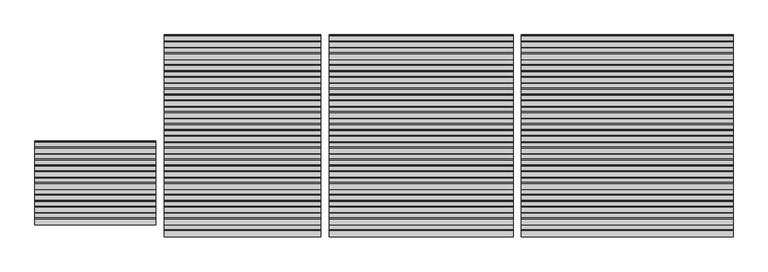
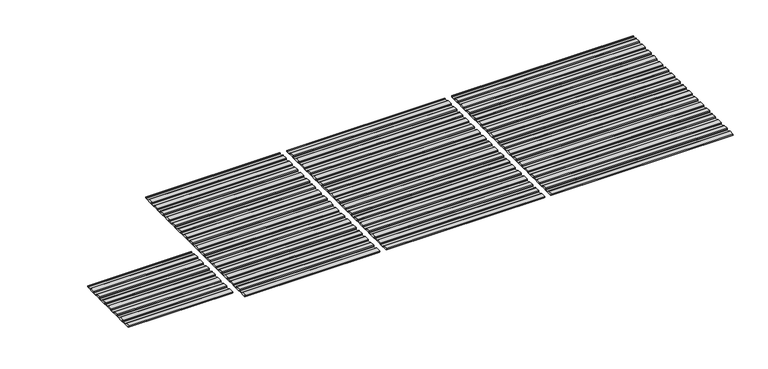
"""IFC4 building model written with IfcOpenShell, lengths in millimetres: proxy geometry, Renson_Camargue_Freestanding_Patio covers : Renson_Camargue_Freestanding_Patio covers."""

from ifc_helpers import new_model, si_unit, point, frame, frame_2d, origin, place, context, project, spatial, polyline, circle_curve, trimmed, segment, composite_curve, outline, extrude, source, transform, mapped, element, save


def generic_models_a9a52054(model_context):
    return source(origin(), model_context, "Body", "SweptSolid", [
        extrude(outline(composite_curve([segment(polyline([(-1573.7338351, 2458.35), (-1576.1539448, 2486.01198), (-1604.9891952, 2487.3970364), (-1601.5518641, 2506.8911096), (-1491.5547493, 2501.6075693)]), True, "CONTINUOUS"), segment(trimmed(circle_curve(frame_2d((-1492.2744212, 2486.6248435)), 15.0), [point((-1491.5547493, 2501.6075693))], [point((-1477.5023049, 2489.2295662))], False, "CARTESIAN"), True, "CONTINUOUS"), segment(polyline([(-1477.5023049, 2489.2295662), (-1474.1116136, 2470.0), (-1386.3758376, 2470.0), (-1383.3643801, 2487.0788237), (-1368.0874097, 2486.3450182), (-1365.6381629, 2458.35), (-1573.7338351, 2458.35)]), True, "CONTINUOUS")], self_intersect=False)), frame((7750.0, 0.0, 0.0), z_axis=(1.0, 0.0, 0.0), x_axis=(0.0, 1.0, 0.0)), (0.0, 0.0, 1.0), 3850.0),
        extrude(outline(composite_curve([segment(polyline([(-1358.7230303, 2458.35), (-1361.14314, 2486.01198), (-1389.9783904, 2487.3970364), (-1386.5410594, 2506.8911096), (-1276.5439445, 2501.6075693)]), True, "CONTINUOUS"), segment(trimmed(circle_curve(frame_2d((-1277.2636164, 2486.6248435)), 15.0), [point((-1276.5439445, 2501.6075693))], [point((-1262.4915001, 2489.2295662))], False, "CARTESIAN"), True, "CONTINUOUS"), segment(polyline([(-1262.4915001, 2489.2295662), (-1259.1008088, 2470.0), (-1171.3650328, 2470.0), (-1168.3535754, 2487.0788237), (-1153.0766049, 2486.3450182), (-1150.6273582, 2458.35), (-1358.7230303, 2458.35)]), True, "CONTINUOUS")], self_intersect=False)), frame((7750.0, 0.0, 0.0), z_axis=(1.0, 0.0, 0.0), x_axis=(0.0, 1.0, 0.0)), (0.0, 0.0, 1.0), 3850.0),
        extrude(outline(composite_curve([segment(polyline([(-1143.7122255, 2458.35), (-1146.1323352, 2486.01198), (-1174.9675857, 2487.3970364), (-1171.5302546, 2506.8911096), (-1061.5331397, 2501.6075693)]), True, "CONTINUOUS"), segment(trimmed(circle_curve(frame_2d((-1062.2528117, 2486.6248435)), 15.0), [point((-1061.5331397, 2501.6075693))], [point((-1047.4806954, 2489.2295662))], False, "CARTESIAN"), True, "CONTINUOUS"), segment(polyline([(-1047.4806954, 2489.2295662), (-1044.090004, 2470.0), (-956.354228, 2470.0), (-953.3427706, 2487.0788237), (-938.0658001, 2486.3450182), (-935.6165534, 2458.35), (-1143.7122255, 2458.35)]), True, "CONTINUOUS")], self_intersect=False)), frame((7750.0, 0.0, 0.0), z_axis=(1.0, 0.0, 0.0), x_axis=(0.0, 1.0, 0.0)), (0.0, 0.0, 1.0), 3850.0),
        extrude(outline(composite_curve([segment(polyline([(-928.7014208, 2458.35), (-931.1215304, 2486.01198), (-959.9567809, 2487.3970364), (-956.5194498, 2506.8911096), (-846.5223349, 2501.6075693)]), True, "CONTINUOUS"), segment(trimmed(circle_curve(frame_2d((-847.2420069, 2486.6248435)), 15.0), [point((-846.5223349, 2501.6075693))], [point((-832.4698906, 2489.2295662))], False, "CARTESIAN"), True, "CONTINUOUS"), segment(polyline([(-832.4698906, 2489.2295662), (-829.0791992, 2470.0), (-741.3434232, 2470.0), (-738.3319658, 2487.0788237), (-723.0549953, 2486.3450182), (-720.6057486, 2458.35), (-928.7014208, 2458.35)]), True, "CONTINUOUS")], self_intersect=False)), frame((7750.0, 0.0, 0.0), z_axis=(1.0, 0.0, 0.0), x_axis=(0.0, 1.0, 0.0)), (0.0, 0.0, 1.0), 3850.0),
        extrude(outline(composite_curve([segment(polyline([(-713.690616, 2458.35), (-716.1107256, 2486.01198), (-744.9459761, 2487.3970364), (-741.508645, 2506.8911096), (-631.5115302, 2501.6075693)]), True, "CONTINUOUS"), segment(trimmed(circle_curve(frame_2d((-632.2312021, 2486.6248435)), 15.0), [point((-631.5115302, 2501.6075693))], [point((-617.4590858, 2489.2295662))], False, "CARTESIAN"), True, "CONTINUOUS"), segment(polyline([(-617.4590858, 2489.2295662), (-614.0683945, 2470.0), (-526.3326184, 2470.0), (-523.321161, 2487.0788237), (-508.0441905, 2486.3450182), (-505.5949438, 2458.35), (-713.690616, 2458.35)]), True, "CONTINUOUS")], self_intersect=False)), frame((7750.0, 0.0, 0.0), z_axis=(1.0, 0.0, 0.0), x_axis=(0.0, 1.0, 0.0)), (0.0, 0.0, 1.0), 3850.0),
        extrude(outline(composite_curve([segment(polyline([(-498.6798112, 2458.35), (-501.0999209, 2486.01198), (-529.9351713, 2487.3970364), (-526.4978402, 2506.8911096), (-416.5007254, 2501.6075693)]), True, "CONTINUOUS"), segment(trimmed(circle_curve(frame_2d((-417.2203973, 2486.6248435)), 15.0), [point((-416.5007254, 2501.6075693))], [point((-402.448281, 2489.2295662))], False, "CARTESIAN"), True, "CONTINUOUS"), segment(polyline([(-402.448281, 2489.2295662), (-399.0575897, 2470.0), (-311.3218136, 2470.0), (-308.3103562, 2487.0788237), (-293.0333858, 2486.3450182), (-290.584139, 2458.35), (-498.6798112, 2458.35)]), True, "CONTINUOUS")], self_intersect=False)), frame((7750.0, 0.0, 0.0), z_axis=(1.0, 0.0, 0.0), x_axis=(0.0, 1.0, 0.0)), (0.0, 0.0, 1.0), 3850.0),
        extrude(outline(composite_curve([segment(polyline([(-283.6690064, 2458.35), (-286.0891161, 2486.01198), (-314.9243665, 2487.3970364), (-311.4870355, 2506.8911096), (-201.4899206, 2501.6075693)]), True, "CONTINUOUS"), segment(trimmed(circle_curve(frame_2d((-202.2095925, 2486.6248435)), 15.0), [point((-201.4899206, 2501.6075693))], [point((-187.4374762, 2489.2295662))], False, "CARTESIAN"), True, "CONTINUOUS"), segment(polyline([(-187.4374762, 2489.2295662), (-184.0467849, 2470.0), (-96.3110089, 2470.0), (-93.2995515, 2487.0788237), (-78.022581, 2486.3450182), (-75.5733343, 2458.35), (-283.6690064, 2458.35)]), True, "CONTINUOUS")], self_intersect=False)), frame((7750.0, 0.0, 0.0), z_axis=(1.0, 0.0, 0.0), x_axis=(0.0, 1.0, 0.0)), (0.0, 0.0, 1.0), 3850.0),
        extrude(outline(composite_curve([segment(polyline([(-68.6582016, 2458.35), (-71.0783113, 2486.01198), (-99.9135617, 2487.3970364), (-96.4762307, 2506.8911096), (13.5208842, 2501.6075693)]), True, "CONTINUOUS"), segment(trimmed(circle_curve(frame_2d((12.8012122, 2486.6248435)), 15.0), [point((13.5208842, 2501.6075693))], [point((27.5733285, 2489.2295662))], False, "CARTESIAN"), True, "CONTINUOUS"), segment(polyline([(27.5733285, 2489.2295662), (30.9640199, 2470.0), (118.6997959, 2470.0), (121.7112533, 2487.0788237), (136.9882238, 2486.3450182), (139.4374705, 2458.35), (-68.6582016, 2458.35)]), True, "CONTINUOUS")], self_intersect=False)), frame((7750.0, 0.0, 0.0), z_axis=(1.0, 0.0, 0.0), x_axis=(0.0, 1.0, 0.0)), (0.0, 0.0, 1.0), 3850.0),
        extrude(outline(composite_curve([segment(polyline([(146.3526032, 2458.35), (143.9324935, 2486.01198), (115.097243, 2487.3970364), (118.5345741, 2506.8911096), (228.531689, 2501.6075693)]), True, "CONTINUOUS"), segment(trimmed(circle_curve(frame_2d((227.812017, 2486.6248435)), 15.0), [point((228.531689, 2501.6075693))], [point((242.5841333, 2489.2295662))], False, "CARTESIAN"), True, "CONTINUOUS"), segment(polyline([(242.5841333, 2489.2295662), (245.9748247, 2470.0), (333.7106007, 2470.0), (336.7220581, 2487.0788237), (351.9990286, 2486.3450182), (354.4482753, 2458.35), (146.3526032, 2458.35)]), True, "CONTINUOUS")], self_intersect=False)), frame((7750.0, 0.0, 0.0), z_axis=(1.0, 0.0, 0.0), x_axis=(0.0, 1.0, 0.0)), (0.0, 0.0, 1.0), 3850.0),
        extrude(outline(composite_curve([segment(polyline([(361.3634079, 2458.35), (358.9432983, 2486.01198), (330.1080478, 2487.3970364), (333.5453789, 2506.8911096), (443.5424937, 2501.6075693)]), True, "CONTINUOUS"), segment(trimmed(circle_curve(frame_2d((442.8228218, 2486.6248435)), 15.0), [point((443.5424937, 2501.6075693))], [point((457.5949381, 2489.2295662))], False, "CARTESIAN"), True, "CONTINUOUS"), segment(polyline([(457.5949381, 2489.2295662), (460.9856294, 2470.0), (548.7214055, 2470.0), (551.7328629, 2487.0788237), (567.0098334, 2486.3450182), (569.4590801, 2458.35), (361.3634079, 2458.35)]), True, "CONTINUOUS")], self_intersect=False)), frame((7750.0, 0.0, 0.0), z_axis=(1.0, 0.0, 0.0), x_axis=(0.0, 1.0, 0.0)), (0.0, 0.0, 1.0), 3850.0),
        extrude(outline(composite_curve([segment(polyline([(576.3742127, 2458.35), (573.9541031, 2486.01198), (545.1188526, 2487.3970364), (548.5561837, 2506.8911096), (658.5532985, 2501.6075693)]), True, "CONTINUOUS"), segment(trimmed(circle_curve(frame_2d((657.8336266, 2486.6248435)), 15.0), [point((658.5532985, 2501.6075693))], [point((672.6057429, 2489.2295662))], False, "CARTESIAN"), True, "CONTINUOUS"), segment(polyline([(672.6057429, 2489.2295662), (675.9964342, 2470.0), (763.7322103, 2470.0), (766.7436677, 2487.0788237), (782.0206381, 2486.3450182), (784.4698849, 2458.35), (576.3742127, 2458.35)]), True, "CONTINUOUS")], self_intersect=False)), frame((7750.0, 0.0, 0.0), z_axis=(1.0, 0.0, 0.0), x_axis=(0.0, 1.0, 0.0)), (0.0, 0.0, 1.0), 3850.0),
        extrude(outline(composite_curve([segment(polyline([(791.3850175, 2458.35), (788.9649078, 2486.01198), (760.1296574, 2487.3970364), (763.5669885, 2506.8911096), (873.5641033, 2501.6075693)]), True, "CONTINUOUS"), segment(trimmed(circle_curve(frame_2d((872.8444314, 2486.6248435)), 15.0), [point((873.5641033, 2501.6075693))], [point((887.6165477, 2489.2295662))], False, "CARTESIAN"), True, "CONTINUOUS"), segment(polyline([(887.6165477, 2489.2295662), (891.007239, 2470.0), (978.743015, 2470.0), (981.7544725, 2487.0788237), (997.0314429, 2486.3450182), (999.4806897, 2458.35), (791.3850175, 2458.35)]), True, "CONTINUOUS")], self_intersect=False)), frame((7750.0, 0.0, 0.0), z_axis=(1.0, 0.0, 0.0), x_axis=(0.0, 1.0, 0.0)), (0.0, 0.0, 1.0), 3850.0),
        extrude(outline(composite_curve([segment(polyline([(1006.3958223, 2458.35), (1003.9757126, 2486.01198), (975.1404622, 2487.3970364), (978.5777932, 2506.8911096), (1088.5749081, 2501.6075693)]), True, "CONTINUOUS"), segment(trimmed(circle_curve(frame_2d((1087.8552362, 2486.6248435)), 15.0), [point((1088.5749081, 2501.6075693))], [point((1102.6273525, 2489.2295662))], False, "CARTESIAN"), True, "CONTINUOUS"), segment(polyline([(1102.6273525, 2489.2295662), (1106.0180438, 2470.0), (1193.7538198, 2470.0), (1196.7652772, 2487.0788237), (1212.0422477, 2486.3450182), (1214.4914944, 2458.35), (1006.3958223, 2458.35)]), True, "CONTINUOUS")], self_intersect=False)), frame((7750.0, 0.0, 0.0), z_axis=(1.0, 0.0, 0.0), x_axis=(0.0, 1.0, 0.0)), (0.0, 0.0, 1.0), 3850.0),
        extrude(outline(composite_curve([segment(polyline([(1221.4066271, 2458.35), (1218.9865174, 2486.01198), (1190.1512669, 2487.3970364), (1193.588598, 2506.8911096), (1303.5857129, 2501.6075693)]), True, "CONTINUOUS"), segment(trimmed(circle_curve(frame_2d((1302.8660409, 2486.6248435)), 15.0), [point((1303.5857129, 2501.6075693))], [point((1317.6381572, 2489.2295662))], False, "CARTESIAN"), True, "CONTINUOUS"), segment(polyline([(1317.6381572, 2489.2295662), (1321.0288486, 2470.0), (1408.7646246, 2470.0), (1411.776082, 2487.0788237), (1427.0530525, 2486.3450182), (1429.5022992, 2458.35), (1221.4066271, 2458.35)]), True, "CONTINUOUS")], self_intersect=False)), frame((7750.0, 0.0, 0.0), z_axis=(1.0, 0.0, 0.0), x_axis=(0.0, 1.0, 0.0)), (0.0, 0.0, 1.0), 3850.0),
        extrude(outline(composite_curve([segment(polyline([(1436.4174318, 2458.35), (1433.9973222, 2486.01198), (1405.1620717, 2487.3970364), (1408.5994028, 2506.8911096), (1518.5965176, 2501.6075693)]), True, "CONTINUOUS"), segment(trimmed(circle_curve(frame_2d((1517.8768457, 2486.6248435)), 15.0), [point((1518.5965176, 2501.6075693))], [point((1532.648962, 2489.2295662))], False, "CARTESIAN"), True, "CONTINUOUS"), segment(polyline([(1532.648962, 2489.2295662), (1536.0396534, 2470.0), (1623.7754294, 2470.0), (1626.7868868, 2487.0788237), (1642.0638573, 2486.3450182), (1644.513104, 2458.35), (1436.4174318, 2458.35)]), True, "CONTINUOUS")], self_intersect=False)), frame((7750.0, 0.0, 0.0), z_axis=(1.0, 0.0, 0.0), x_axis=(0.0, 1.0, 0.0)), (0.0, 0.0, 1.0), 3850.0),
        extrude(outline(composite_curve([segment(polyline([(-1788.7446399, 2458.35), (-1791.1647495, 2486.01198), (-1820.0, 2487.3970364), (-1816.5626689, 2506.8911096), (-1706.5655541, 2501.6075693)]), True, "CONTINUOUS"), segment(trimmed(circle_curve(frame_2d((-1707.285226, 2486.6248435)), 15.0), [point((-1706.5655541, 2501.6075693))], [point((-1692.5131097, 2489.2295662))], False, "CARTESIAN"), True, "CONTINUOUS"), segment(polyline([(-1692.5131097, 2489.2295662), (-1689.1224184, 2470.0), (-1601.3866423, 2470.0), (-1598.3751849, 2487.0788237), (-1583.0982144, 2486.3450182), (-1580.6489677, 2458.35), (-1788.7446399, 2458.35)]), True, "CONTINUOUS")], self_intersect=False)), frame((7750.0, 0.0, 0.0), z_axis=(1.0, 0.0, 0.0), x_axis=(0.0, 1.0, 0.0)), (0.0, 0.0, 1.0), 3850.0),
        extrude(outline(composite_curve([segment(polyline([(1651.4282366, 2458.35), (1649.008127, 2486.01198), (1620.1728765, 2487.3970364), (1623.6102076, 2506.8911096), (1733.6073224, 2501.6075693)]), True, "CONTINUOUS"), segment(trimmed(circle_curve(frame_2d((1732.8876505, 2486.6248435)), 15.0), [point((1733.6073224, 2501.6075693))], [point((1747.6597668, 2489.2295662))], False, "CARTESIAN"), True, "CONTINUOUS"), segment(polyline([(1747.6597668, 2489.2295662), (1751.0504581, 2470.0), (1838.7862342, 2470.0), (1841.7976916, 2487.0788237), (1857.0746621, 2486.3450182), (1859.5239088, 2458.35), (1651.4282366, 2458.35)]), True, "CONTINUOUS")], self_intersect=False)), frame((7750.0, 0.0, 0.0), z_axis=(1.0, 0.0, 0.0), x_axis=(0.0, 1.0, 0.0)), (0.0, 0.0, 1.0), 3850.0),
        extrude(outline(composite_curve([segment(polyline([(-1573.7338351, 2458.35), (-1576.1539448, 2486.01198), (-1604.9891952, 2487.3970364), (-1601.5518641, 2506.8911096), (-1491.5547493, 2501.6075693)]), True, "CONTINUOUS"), segment(trimmed(circle_curve(frame_2d((-1492.2744212, 2486.6248435)), 15.0), [point((-1491.5547493, 2501.6075693))], [point((-1477.5023049, 2489.2295662))], False, "CARTESIAN"), True, "CONTINUOUS"), segment(polyline([(-1477.5023049, 2489.2295662), (-1474.1116136, 2470.0), (-1386.3758376, 2470.0), (-1383.3643801, 2487.0788237), (-1368.0874097, 2486.3450182), (-1365.6381629, 2458.35), (-1573.7338351, 2458.35)]), True, "CONTINUOUS")], self_intersect=False)), frame((4250.0, 0.0, 0.0), z_axis=(1.0, 0.0, 0.0), x_axis=(0.0, 1.0, 0.0)), (0.0, 0.0, 1.0), 3350.0),
        extrude(outline(composite_curve([segment(polyline([(-1358.7230303, 2458.35), (-1361.14314, 2486.01198), (-1389.9783904, 2487.3970364), (-1386.5410594, 2506.8911096), (-1276.5439445, 2501.6075693)]), True, "CONTINUOUS"), segment(trimmed(circle_curve(frame_2d((-1277.2636164, 2486.6248435)), 15.0), [point((-1276.5439445, 2501.6075693))], [point((-1262.4915001, 2489.2295662))], False, "CARTESIAN"), True, "CONTINUOUS"), segment(polyline([(-1262.4915001, 2489.2295662), (-1259.1008088, 2470.0), (-1171.3650328, 2470.0), (-1168.3535754, 2487.0788237), (-1153.0766049, 2486.3450182), (-1150.6273582, 2458.35), (-1358.7230303, 2458.35)]), True, "CONTINUOUS")], self_intersect=False)), frame((4250.0, 0.0, 0.0), z_axis=(1.0, 0.0, 0.0), x_axis=(0.0, 1.0, 0.0)), (0.0, 0.0, 1.0), 3350.0),
        extrude(outline(composite_curve([segment(polyline([(-1143.7122255, 2458.35), (-1146.1323352, 2486.01198), (-1174.9675857, 2487.3970364), (-1171.5302546, 2506.8911096), (-1061.5331397, 2501.6075693)]), True, "CONTINUOUS"), segment(trimmed(circle_curve(frame_2d((-1062.2528117, 2486.6248435)), 15.0), [point((-1061.5331397, 2501.6075693))], [point((-1047.4806954, 2489.2295662))], False, "CARTESIAN"), True, "CONTINUOUS"), segment(polyline([(-1047.4806954, 2489.2295662), (-1044.090004, 2470.0), (-956.354228, 2470.0), (-953.3427706, 2487.0788237), (-938.0658001, 2486.3450182), (-935.6165534, 2458.35), (-1143.7122255, 2458.35)]), True, "CONTINUOUS")], self_intersect=False)), frame((4250.0, 0.0, 0.0), z_axis=(1.0, 0.0, 0.0), x_axis=(0.0, 1.0, 0.0)), (0.0, 0.0, 1.0), 3350.0),
        extrude(outline(composite_curve([segment(polyline([(-928.7014208, 2458.35), (-931.1215304, 2486.01198), (-959.9567809, 2487.3970364), (-956.5194498, 2506.8911096), (-846.5223349, 2501.6075693)]), True, "CONTINUOUS"), segment(trimmed(circle_curve(frame_2d((-847.2420069, 2486.6248435)), 15.0), [point((-846.5223349, 2501.6075693))], [point((-832.4698906, 2489.2295662))], False, "CARTESIAN"), True, "CONTINUOUS"), segment(polyline([(-832.4698906, 2489.2295662), (-829.0791992, 2470.0), (-741.3434232, 2470.0), (-738.3319658, 2487.0788237), (-723.0549953, 2486.3450182), (-720.6057486, 2458.35), (-928.7014208, 2458.35)]), True, "CONTINUOUS")], self_intersect=False)), frame((4250.0, 0.0, 0.0), z_axis=(1.0, 0.0, 0.0), x_axis=(0.0, 1.0, 0.0)), (0.0, 0.0, 1.0), 3350.0),
        extrude(outline(composite_curve([segment(polyline([(-713.690616, 2458.35), (-716.1107256, 2486.01198), (-744.9459761, 2487.3970364), (-741.508645, 2506.8911096), (-631.5115302, 2501.6075693)]), True, "CONTINUOUS"), segment(trimmed(circle_curve(frame_2d((-632.2312021, 2486.6248435)), 15.0), [point((-631.5115302, 2501.6075693))], [point((-617.4590858, 2489.2295662))], False, "CARTESIAN"), True, "CONTINUOUS"), segment(polyline([(-617.4590858, 2489.2295662), (-614.0683945, 2470.0), (-526.3326184, 2470.0), (-523.321161, 2487.0788237), (-508.0441905, 2486.3450182), (-505.5949438, 2458.35), (-713.690616, 2458.35)]), True, "CONTINUOUS")], self_intersect=False)), frame((4250.0, 0.0, 0.0), z_axis=(1.0, 0.0, 0.0), x_axis=(0.0, 1.0, 0.0)), (0.0, 0.0, 1.0), 3350.0),
        extrude(outline(composite_curve([segment(polyline([(-498.6798112, 2458.35), (-501.0999209, 2486.01198), (-529.9351713, 2487.3970364), (-526.4978402, 2506.8911096), (-416.5007254, 2501.6075693)]), True, "CONTINUOUS"), segment(trimmed(circle_curve(frame_2d((-417.2203973, 2486.6248435)), 15.0), [point((-416.5007254, 2501.6075693))], [point((-402.448281, 2489.2295662))], False, "CARTESIAN"), True, "CONTINUOUS"), segment(polyline([(-402.448281, 2489.2295662), (-399.0575897, 2470.0), (-311.3218136, 2470.0), (-308.3103562, 2487.0788237), (-293.0333858, 2486.3450182), (-290.584139, 2458.35), (-498.6798112, 2458.35)]), True, "CONTINUOUS")], self_intersect=False)), frame((4250.0, 0.0, 0.0), z_axis=(1.0, 0.0, 0.0), x_axis=(0.0, 1.0, 0.0)), (0.0, 0.0, 1.0), 3350.0),
        extrude(outline(composite_curve([segment(polyline([(-283.6690064, 2458.35), (-286.0891161, 2486.01198), (-314.9243665, 2487.3970364), (-311.4870355, 2506.8911096), (-201.4899206, 2501.6075693)]), True, "CONTINUOUS"), segment(trimmed(circle_curve(frame_2d((-202.2095925, 2486.6248435)), 15.0), [point((-201.4899206, 2501.6075693))], [point((-187.4374762, 2489.2295662))], False, "CARTESIAN"), True, "CONTINUOUS"), segment(polyline([(-187.4374762, 2489.2295662), (-184.0467849, 2470.0), (-96.3110089, 2470.0), (-93.2995515, 2487.0788237), (-78.022581, 2486.3450182), (-75.5733343, 2458.35), (-283.6690064, 2458.35)]), True, "CONTINUOUS")], self_intersect=False)), frame((4250.0, 0.0, 0.0), z_axis=(1.0, 0.0, 0.0), x_axis=(0.0, 1.0, 0.0)), (0.0, 0.0, 1.0), 3350.0),
        extrude(outline(composite_curve([segment(polyline([(-68.6582016, 2458.35), (-71.0783113, 2486.01198), (-99.9135617, 2487.3970364), (-96.4762307, 2506.8911096), (13.5208842, 2501.6075693)]), True, "CONTINUOUS"), segment(trimmed(circle_curve(frame_2d((12.8012122, 2486.6248435)), 15.0), [point((13.5208842, 2501.6075693))], [point((27.5733285, 2489.2295662))], False, "CARTESIAN"), True, "CONTINUOUS"), segment(polyline([(27.5733285, 2489.2295662), (30.9640199, 2470.0), (118.6997959, 2470.0), (121.7112533, 2487.0788237), (136.9882238, 2486.3450182), (139.4374705, 2458.35), (-68.6582016, 2458.35)]), True, "CONTINUOUS")], self_intersect=False)), frame((4250.0, 0.0, 0.0), z_axis=(1.0, 0.0, 0.0), x_axis=(0.0, 1.0, 0.0)), (0.0, 0.0, 1.0), 3350.0),
        extrude(outline(composite_curve([segment(polyline([(146.3526032, 2458.35), (143.9324935, 2486.01198), (115.097243, 2487.3970364), (118.5345741, 2506.8911096), (228.531689, 2501.6075693)]), True, "CONTINUOUS"), segment(trimmed(circle_curve(frame_2d((227.812017, 2486.6248435)), 15.0), [point((228.531689, 2501.6075693))], [point((242.5841333, 2489.2295662))], False, "CARTESIAN"), True, "CONTINUOUS"), segment(polyline([(242.5841333, 2489.2295662), (245.9748247, 2470.0), (333.7106007, 2470.0), (336.7220581, 2487.0788237), (351.9990286, 2486.3450182), (354.4482753, 2458.35), (146.3526032, 2458.35)]), True, "CONTINUOUS")], self_intersect=False)), frame((4250.0, 0.0, 0.0), z_axis=(1.0, 0.0, 0.0), x_axis=(0.0, 1.0, 0.0)), (0.0, 0.0, 1.0), 3350.0),
        extrude(outline(composite_curve([segment(polyline([(361.3634079, 2458.35), (358.9432983, 2486.01198), (330.1080478, 2487.3970364), (333.5453789, 2506.8911096), (443.5424937, 2501.6075693)]), True, "CONTINUOUS"), segment(trimmed(circle_curve(frame_2d((442.8228218, 2486.6248435)), 15.0), [point((443.5424937, 2501.6075693))], [point((457.5949381, 2489.2295662))], False, "CARTESIAN"), True, "CONTINUOUS"), segment(polyline([(457.5949381, 2489.2295662), (460.9856294, 2470.0), (548.7214055, 2470.0), (551.7328629, 2487.0788237), (567.0098334, 2486.3450182), (569.4590801, 2458.35), (361.3634079, 2458.35)]), True, "CONTINUOUS")], self_intersect=False)), frame((4250.0, 0.0, 0.0), z_axis=(1.0, 0.0, 0.0), x_axis=(0.0, 1.0, 0.0)), (0.0, 0.0, 1.0), 3350.0),
        extrude(outline(composite_curve([segment(polyline([(576.3742127, 2458.35), (573.9541031, 2486.01198), (545.1188526, 2487.3970364), (548.5561837, 2506.8911096), (658.5532985, 2501.6075693)]), True, "CONTINUOUS"), segment(trimmed(circle_curve(frame_2d((657.8336266, 2486.6248435)), 15.0), [point((658.5532985, 2501.6075693))], [point((672.6057429, 2489.2295662))], False, "CARTESIAN"), True, "CONTINUOUS"), segment(polyline([(672.6057429, 2489.2295662), (675.9964342, 2470.0), (763.7322103, 2470.0), (766.7436677, 2487.0788237), (782.0206381, 2486.3450182), (784.4698849, 2458.35), (576.3742127, 2458.35)]), True, "CONTINUOUS")], self_intersect=False)), frame((4250.0, 0.0, 0.0), z_axis=(1.0, 0.0, 0.0), x_axis=(0.0, 1.0, 0.0)), (0.0, 0.0, 1.0), 3350.0),
        extrude(outline(composite_curve([segment(polyline([(791.3850175, 2458.35), (788.9649078, 2486.01198), (760.1296574, 2487.3970364), (763.5669885, 2506.8911096), (873.5641033, 2501.6075693)]), True, "CONTINUOUS"), segment(trimmed(circle_curve(frame_2d((872.8444314, 2486.6248435)), 15.0), [point((873.5641033, 2501.6075693))], [point((887.6165477, 2489.2295662))], False, "CARTESIAN"), True, "CONTINUOUS"), segment(polyline([(887.6165477, 2489.2295662), (891.007239, 2470.0), (978.743015, 2470.0), (981.7544725, 2487.0788237), (997.0314429, 2486.3450182), (999.4806897, 2458.35), (791.3850175, 2458.35)]), True, "CONTINUOUS")], self_intersect=False)), frame((4250.0, 0.0, 0.0), z_axis=(1.0, 0.0, 0.0), x_axis=(0.0, 1.0, 0.0)), (0.0, 0.0, 1.0), 3350.0),
        extrude(outline(composite_curve([segment(polyline([(1006.3958223, 2458.35), (1003.9757126, 2486.01198), (975.1404622, 2487.3970364), (978.5777932, 2506.8911096), (1088.5749081, 2501.6075693)]), True, "CONTINUOUS"), segment(trimmed(circle_curve(frame_2d((1087.8552362, 2486.6248435)), 15.0), [point((1088.5749081, 2501.6075693))], [point((1102.6273525, 2489.2295662))], False, "CARTESIAN"), True, "CONTINUOUS"), segment(polyline([(1102.6273525, 2489.2295662), (1106.0180438, 2470.0), (1193.7538198, 2470.0), (1196.7652772, 2487.0788237), (1212.0422477, 2486.3450182), (1214.4914944, 2458.35), (1006.3958223, 2458.35)]), True, "CONTINUOUS")], self_intersect=False)), frame((4250.0, 0.0, 0.0), z_axis=(1.0, 0.0, 0.0), x_axis=(0.0, 1.0, 0.0)), (0.0, 0.0, 1.0), 3350.0),
        extrude(outline(composite_curve([segment(polyline([(1221.4066271, 2458.35), (1218.9865174, 2486.01198), (1190.1512669, 2487.3970364), (1193.588598, 2506.8911096), (1303.5857129, 2501.6075693)]), True, "CONTINUOUS"), segment(trimmed(circle_curve(frame_2d((1302.8660409, 2486.6248435)), 15.0), [point((1303.5857129, 2501.6075693))], [point((1317.6381572, 2489.2295662))], False, "CARTESIAN"), True, "CONTINUOUS"), segment(polyline([(1317.6381572, 2489.2295662), (1321.0288486, 2470.0), (1408.7646246, 2470.0), (1411.776082, 2487.0788237), (1427.0530525, 2486.3450182), (1429.5022992, 2458.35), (1221.4066271, 2458.35)]), True, "CONTINUOUS")], self_intersect=False)), frame((4250.0, 0.0, 0.0), z_axis=(1.0, 0.0, 0.0), x_axis=(0.0, 1.0, 0.0)), (0.0, 0.0, 1.0), 3350.0),
        extrude(outline(composite_curve([segment(polyline([(1436.4174318, 2458.35), (1433.9973222, 2486.01198), (1405.1620717, 2487.3970364), (1408.5994028, 2506.8911096), (1518.5965176, 2501.6075693)]), True, "CONTINUOUS"), segment(trimmed(circle_curve(frame_2d((1517.8768457, 2486.6248435)), 15.0), [point((1518.5965176, 2501.6075693))], [point((1532.648962, 2489.2295662))], False, "CARTESIAN"), True, "CONTINUOUS"), segment(polyline([(1532.648962, 2489.2295662), (1536.0396534, 2470.0), (1623.7754294, 2470.0), (1626.7868868, 2487.0788237), (1642.0638573, 2486.3450182), (1644.513104, 2458.35), (1436.4174318, 2458.35)]), True, "CONTINUOUS")], self_intersect=False)), frame((4250.0, 0.0, 0.0), z_axis=(1.0, 0.0, 0.0), x_axis=(0.0, 1.0, 0.0)), (0.0, 0.0, 1.0), 3350.0),
        extrude(outline(composite_curve([segment(polyline([(-1788.7446399, 2458.35), (-1791.1647495, 2486.01198), (-1820.0, 2487.3970364), (-1816.5626689, 2506.8911096), (-1706.5655541, 2501.6075693)]), True, "CONTINUOUS"), segment(trimmed(circle_curve(frame_2d((-1707.285226, 2486.6248435)), 15.0), [point((-1706.5655541, 2501.6075693))], [point((-1692.5131097, 2489.2295662))], False, "CARTESIAN"), True, "CONTINUOUS"), segment(polyline([(-1692.5131097, 2489.2295662), (-1689.1224184, 2470.0), (-1601.3866423, 2470.0), (-1598.3751849, 2487.0788237), (-1583.0982144, 2486.3450182), (-1580.6489677, 2458.35), (-1788.7446399, 2458.35)]), True, "CONTINUOUS")], self_intersect=False)), frame((4250.0, 0.0, 0.0), z_axis=(1.0, 0.0, 0.0), x_axis=(0.0, 1.0, 0.0)), (0.0, 0.0, 1.0), 3350.0),
        extrude(outline(composite_curve([segment(polyline([(1651.4282366, 2458.35), (1649.008127, 2486.01198), (1620.1728765, 2487.3970364), (1623.6102076, 2506.8911096), (1733.6073224, 2501.6075693)]), True, "CONTINUOUS"), segment(trimmed(circle_curve(frame_2d((1732.8876505, 2486.6248435)), 15.0), [point((1733.6073224, 2501.6075693))], [point((1747.6597668, 2489.2295662))], False, "CARTESIAN"), True, "CONTINUOUS"), segment(polyline([(1747.6597668, 2489.2295662), (1751.0504581, 2470.0), (1838.7862342, 2470.0), (1841.7976916, 2487.0788237), (1857.0746621, 2486.3450182), (1859.5239088, 2458.35), (1651.4282366, 2458.35)]), True, "CONTINUOUS")], self_intersect=False)), frame((4250.0, 0.0, 0.0), z_axis=(1.0, 0.0, 0.0), x_axis=(0.0, 1.0, 0.0)), (0.0, 0.0, 1.0), 3350.0),
        extrude(outline(composite_curve([segment(polyline([(-1573.7338351, 2458.35), (-1576.1539448, 2486.01198), (-1604.9891952, 2487.3970364), (-1601.5518641, 2506.8911096), (-1491.5547493, 2501.6075693)]), True, "CONTINUOUS"), segment(trimmed(circle_curve(frame_2d((-1492.2744212, 2486.6248435)), 15.0), [point((-1491.5547493, 2501.6075693))], [point((-1477.5023049, 2489.2295662))], False, "CARTESIAN"), True, "CONTINUOUS"), segment(polyline([(-1477.5023049, 2489.2295662), (-1474.1116136, 2470.0), (-1386.3758376, 2470.0), (-1383.3643801, 2487.0788237), (-1368.0874097, 2486.3450182), (-1365.6381629, 2458.35), (-1573.7338351, 2458.35)]), True, "CONTINUOUS")], self_intersect=False)), frame((1250.0, 0.0, 0.0), z_axis=(1.0, 0.0, 0.0), x_axis=(0.0, 1.0, 0.0)), (0.0, 0.0, 1.0), 2850.0),
        extrude(outline(composite_curve([segment(polyline([(-1358.7230303, 2458.35), (-1361.14314, 2486.01198), (-1389.9783904, 2487.3970364), (-1386.5410594, 2506.8911096), (-1276.5439445, 2501.6075693)]), True, "CONTINUOUS"), segment(trimmed(circle_curve(frame_2d((-1277.2636164, 2486.6248435)), 15.0), [point((-1276.5439445, 2501.6075693))], [point((-1262.4915001, 2489.2295662))], False, "CARTESIAN"), True, "CONTINUOUS"), segment(polyline([(-1262.4915001, 2489.2295662), (-1259.1008088, 2470.0), (-1171.3650328, 2470.0), (-1168.3535754, 2487.0788237), (-1153.0766049, 2486.3450182), (-1150.6273582, 2458.35), (-1358.7230303, 2458.35)]), True, "CONTINUOUS")], self_intersect=False)), frame((1250.0, 0.0, 0.0), z_axis=(1.0, 0.0, 0.0), x_axis=(0.0, 1.0, 0.0)), (0.0, 0.0, 1.0), 2850.0),
        extrude(outline(composite_curve([segment(polyline([(-1143.7122255, 2458.35), (-1146.1323352, 2486.01198), (-1174.9675857, 2487.3970364), (-1171.5302546, 2506.8911096), (-1061.5331397, 2501.6075693)]), True, "CONTINUOUS"), segment(trimmed(circle_curve(frame_2d((-1062.2528117, 2486.6248435)), 15.0), [point((-1061.5331397, 2501.6075693))], [point((-1047.4806954, 2489.2295662))], False, "CARTESIAN"), True, "CONTINUOUS"), segment(polyline([(-1047.4806954, 2489.2295662), (-1044.090004, 2470.0), (-956.354228, 2470.0), (-953.3427706, 2487.0788237), (-938.0658001, 2486.3450182), (-935.6165534, 2458.35), (-1143.7122255, 2458.35)]), True, "CONTINUOUS")], self_intersect=False)), frame((1250.0, 0.0, 0.0), z_axis=(1.0, 0.0, 0.0), x_axis=(0.0, 1.0, 0.0)), (0.0, 0.0, 1.0), 2850.0),
        extrude(outline(composite_curve([segment(polyline([(-928.7014208, 2458.35), (-931.1215304, 2486.01198), (-959.9567809, 2487.3970364), (-956.5194498, 2506.8911096), (-846.5223349, 2501.6075693)]), True, "CONTINUOUS"), segment(trimmed(circle_curve(frame_2d((-847.2420069, 2486.6248435)), 15.0), [point((-846.5223349, 2501.6075693))], [point((-832.4698906, 2489.2295662))], False, "CARTESIAN"), True, "CONTINUOUS"), segment(polyline([(-832.4698906, 2489.2295662), (-829.0791992, 2470.0), (-741.3434232, 2470.0), (-738.3319658, 2487.0788237), (-723.0549953, 2486.3450182), (-720.6057486, 2458.35), (-928.7014208, 2458.35)]), True, "CONTINUOUS")], self_intersect=False)), frame((1250.0, 0.0, 0.0), z_axis=(1.0, 0.0, 0.0), x_axis=(0.0, 1.0, 0.0)), (0.0, 0.0, 1.0), 2850.0),
        extrude(outline(composite_curve([segment(polyline([(-713.690616, 2458.35), (-716.1107256, 2486.01198), (-744.9459761, 2487.3970364), (-741.508645, 2506.8911096), (-631.5115302, 2501.6075693)]), True, "CONTINUOUS"), segment(trimmed(circle_curve(frame_2d((-632.2312021, 2486.6248435)), 15.0), [point((-631.5115302, 2501.6075693))], [point((-617.4590858, 2489.2295662))], False, "CARTESIAN"), True, "CONTINUOUS"), segment(polyline([(-617.4590858, 2489.2295662), (-614.0683945, 2470.0), (-526.3326184, 2470.0), (-523.321161, 2487.0788237), (-508.0441905, 2486.3450182), (-505.5949438, 2458.35), (-713.690616, 2458.35)]), True, "CONTINUOUS")], self_intersect=False)), frame((1250.0, 0.0, 0.0), z_axis=(1.0, 0.0, 0.0), x_axis=(0.0, 1.0, 0.0)), (0.0, 0.0, 1.0), 2850.0),
        extrude(outline(composite_curve([segment(polyline([(-498.6798112, 2458.35), (-501.0999209, 2486.01198), (-529.9351713, 2487.3970364), (-526.4978402, 2506.8911096), (-416.5007254, 2501.6075693)]), True, "CONTINUOUS"), segment(trimmed(circle_curve(frame_2d((-417.2203973, 2486.6248435)), 15.0), [point((-416.5007254, 2501.6075693))], [point((-402.448281, 2489.2295662))], False, "CARTESIAN"), True, "CONTINUOUS"), segment(polyline([(-402.448281, 2489.2295662), (-399.0575897, 2470.0), (-311.3218136, 2470.0), (-308.3103562, 2487.0788237), (-293.0333858, 2486.3450182), (-290.584139, 2458.35), (-498.6798112, 2458.35)]), True, "CONTINUOUS")], self_intersect=False)), frame((1250.0, 0.0, 0.0), z_axis=(1.0, 0.0, 0.0), x_axis=(0.0, 1.0, 0.0)), (0.0, 0.0, 1.0), 2850.0),
        extrude(outline(composite_curve([segment(polyline([(-283.6690064, 2458.35), (-286.0891161, 2486.01198), (-314.9243665, 2487.3970364), (-311.4870355, 2506.8911096), (-201.4899206, 2501.6075693)]), True, "CONTINUOUS"), segment(trimmed(circle_curve(frame_2d((-202.2095925, 2486.6248435)), 15.0), [point((-201.4899206, 2501.6075693))], [point((-187.4374762, 2489.2295662))], False, "CARTESIAN"), True, "CONTINUOUS"), segment(polyline([(-187.4374762, 2489.2295662), (-184.0467849, 2470.0), (-96.3110089, 2470.0), (-93.2995515, 2487.0788237), (-78.022581, 2486.3450182), (-75.5733343, 2458.35), (-283.6690064, 2458.35)]), True, "CONTINUOUS")], self_intersect=False)), frame((1250.0, 0.0, 0.0), z_axis=(1.0, 0.0, 0.0), x_axis=(0.0, 1.0, 0.0)), (0.0, 0.0, 1.0), 2850.0),
        extrude(outline(composite_curve([segment(polyline([(-68.6582016, 2458.35), (-71.0783113, 2486.01198), (-99.9135617, 2487.3970364), (-96.4762307, 2506.8911096), (13.5208842, 2501.6075693)]), True, "CONTINUOUS"), segment(trimmed(circle_curve(frame_2d((12.8012122, 2486.6248435)), 15.0), [point((13.5208842, 2501.6075693))], [point((27.5733285, 2489.2295662))], False, "CARTESIAN"), True, "CONTINUOUS"), segment(polyline([(27.5733285, 2489.2295662), (30.9640199, 2470.0), (118.6997959, 2470.0), (121.7112533, 2487.0788237), (136.9882238, 2486.3450182), (139.4374705, 2458.35), (-68.6582016, 2458.35)]), True, "CONTINUOUS")], self_intersect=False)), frame((1250.0, 0.0, 0.0), z_axis=(1.0, 0.0, 0.0), x_axis=(0.0, 1.0, 0.0)), (0.0, 0.0, 1.0), 2850.0),
        extrude(outline(composite_curve([segment(polyline([(146.3526032, 2458.35), (143.9324935, 2486.01198), (115.097243, 2487.3970364), (118.5345741, 2506.8911096), (228.531689, 2501.6075693)]), True, "CONTINUOUS"), segment(trimmed(circle_curve(frame_2d((227.812017, 2486.6248435)), 15.0), [point((228.531689, 2501.6075693))], [point((242.5841333, 2489.2295662))], False, "CARTESIAN"), True, "CONTINUOUS"), segment(polyline([(242.5841333, 2489.2295662), (245.9748247, 2470.0), (333.7106007, 2470.0), (336.7220581, 2487.0788237), (351.9990286, 2486.3450182), (354.4482753, 2458.35), (146.3526032, 2458.35)]), True, "CONTINUOUS")], self_intersect=False)), frame((1250.0, 0.0, 0.0), z_axis=(1.0, 0.0, 0.0), x_axis=(0.0, 1.0, 0.0)), (0.0, 0.0, 1.0), 2850.0),
        extrude(outline(composite_curve([segment(polyline([(361.3634079, 2458.35), (358.9432983, 2486.01198), (330.1080478, 2487.3970364), (333.5453789, 2506.8911096), (443.5424937, 2501.6075693)]), True, "CONTINUOUS"), segment(trimmed(circle_curve(frame_2d((442.8228218, 2486.6248435)), 15.0), [point((443.5424937, 2501.6075693))], [point((457.5949381, 2489.2295662))], False, "CARTESIAN"), True, "CONTINUOUS"), segment(polyline([(457.5949381, 2489.2295662), (460.9856294, 2470.0), (548.7214055, 2470.0), (551.7328629, 2487.0788237), (567.0098334, 2486.3450182), (569.4590801, 2458.35), (361.3634079, 2458.35)]), True, "CONTINUOUS")], self_intersect=False)), frame((1250.0, 0.0, 0.0), z_axis=(1.0, 0.0, 0.0), x_axis=(0.0, 1.0, 0.0)), (0.0, 0.0, 1.0), 2850.0),
        extrude(outline(composite_curve([segment(polyline([(576.3742127, 2458.35), (573.9541031, 2486.01198), (545.1188526, 2487.3970364), (548.5561837, 2506.8911096), (658.5532985, 2501.6075693)]), True, "CONTINUOUS"), segment(trimmed(circle_curve(frame_2d((657.8336266, 2486.6248435)), 15.0), [point((658.5532985, 2501.6075693))], [point((672.6057429, 2489.2295662))], False, "CARTESIAN"), True, "CONTINUOUS"), segment(polyline([(672.6057429, 2489.2295662), (675.9964342, 2470.0), (763.7322103, 2470.0), (766.7436677, 2487.0788237), (782.0206381, 2486.3450182), (784.4698849, 2458.35), (576.3742127, 2458.35)]), True, "CONTINUOUS")], self_intersect=False)), frame((1250.0, 0.0, 0.0), z_axis=(1.0, 0.0, 0.0), x_axis=(0.0, 1.0, 0.0)), (0.0, 0.0, 1.0), 2850.0),
        extrude(outline(composite_curve([segment(polyline([(791.3850175, 2458.35), (788.9649078, 2486.01198), (760.1296574, 2487.3970364), (763.5669885, 2506.8911096), (873.5641033, 2501.6075693)]), True, "CONTINUOUS"), segment(trimmed(circle_curve(frame_2d((872.8444314, 2486.6248435)), 15.0), [point((873.5641033, 2501.6075693))], [point((887.6165477, 2489.2295662))], False, "CARTESIAN"), True, "CONTINUOUS"), segment(polyline([(887.6165477, 2489.2295662), (891.007239, 2470.0), (978.743015, 2470.0), (981.7544725, 2487.0788237), (997.0314429, 2486.3450182), (999.4806897, 2458.35), (791.3850175, 2458.35)]), True, "CONTINUOUS")], self_intersect=False)), frame((1250.0, 0.0, 0.0), z_axis=(1.0, 0.0, 0.0), x_axis=(0.0, 1.0, 0.0)), (0.0, 0.0, 1.0), 2850.0),
        extrude(outline(composite_curve([segment(polyline([(1006.3958223, 2458.35), (1003.9757126, 2486.01198), (975.1404622, 2487.3970364), (978.5777932, 2506.8911096), (1088.5749081, 2501.6075693)]), True, "CONTINUOUS"), segment(trimmed(circle_curve(frame_2d((1087.8552362, 2486.6248435)), 15.0), [point((1088.5749081, 2501.6075693))], [point((1102.6273525, 2489.2295662))], False, "CARTESIAN"), True, "CONTINUOUS"), segment(polyline([(1102.6273525, 2489.2295662), (1106.0180438, 2470.0), (1193.7538198, 2470.0), (1196.7652772, 2487.0788237), (1212.0422477, 2486.3450182), (1214.4914944, 2458.35), (1006.3958223, 2458.35)]), True, "CONTINUOUS")], self_intersect=False)), frame((1250.0, 0.0, 0.0), z_axis=(1.0, 0.0, 0.0), x_axis=(0.0, 1.0, 0.0)), (0.0, 0.0, 1.0), 2850.0),
        extrude(outline(composite_curve([segment(polyline([(1221.4066271, 2458.35), (1218.9865174, 2486.01198), (1190.1512669, 2487.3970364), (1193.588598, 2506.8911096), (1303.5857129, 2501.6075693)]), True, "CONTINUOUS"), segment(trimmed(circle_curve(frame_2d((1302.8660409, 2486.6248435)), 15.0), [point((1303.5857129, 2501.6075693))], [point((1317.6381572, 2489.2295662))], False, "CARTESIAN"), True, "CONTINUOUS"), segment(polyline([(1317.6381572, 2489.2295662), (1321.0288486, 2470.0), (1408.7646246, 2470.0), (1411.776082, 2487.0788237), (1427.0530525, 2486.3450182), (1429.5022992, 2458.35), (1221.4066271, 2458.35)]), True, "CONTINUOUS")], self_intersect=False)), frame((1250.0, 0.0, 0.0), z_axis=(1.0, 0.0, 0.0), x_axis=(0.0, 1.0, 0.0)), (0.0, 0.0, 1.0), 2850.0),
        extrude(outline(composite_curve([segment(polyline([(1436.4174318, 2458.35), (1433.9973222, 2486.01198), (1405.1620717, 2487.3970364), (1408.5994028, 2506.8911096), (1518.5965176, 2501.6075693)]), True, "CONTINUOUS"), segment(trimmed(circle_curve(frame_2d((1517.8768457, 2486.6248435)), 15.0), [point((1518.5965176, 2501.6075693))], [point((1532.648962, 2489.2295662))], False, "CARTESIAN"), True, "CONTINUOUS"), segment(polyline([(1532.648962, 2489.2295662), (1536.0396534, 2470.0), (1623.7754294, 2470.0), (1626.7868868, 2487.0788237), (1642.0638573, 2486.3450182), (1644.513104, 2458.35), (1436.4174318, 2458.35)]), True, "CONTINUOUS")], self_intersect=False)), frame((1250.0, 0.0, 0.0), z_axis=(1.0, 0.0, 0.0), x_axis=(0.0, 1.0, 0.0)), (0.0, 0.0, 1.0), 2850.0),
        extrude(outline(composite_curve([segment(polyline([(-1788.7446399, 2458.35), (-1791.1647495, 2486.01198), (-1820.0, 2487.3970364), (-1816.5626689, 2506.8911096), (-1706.5655541, 2501.6075693)]), True, "CONTINUOUS"), segment(trimmed(circle_curve(frame_2d((-1707.285226, 2486.6248435)), 15.0), [point((-1706.5655541, 2501.6075693))], [point((-1692.5131097, 2489.2295662))], False, "CARTESIAN"), True, "CONTINUOUS"), segment(polyline([(-1692.5131097, 2489.2295662), (-1689.1224184, 2470.0), (-1601.3866423, 2470.0), (-1598.3751849, 2487.0788237), (-1583.0982144, 2486.3450182), (-1580.6489677, 2458.35), (-1788.7446399, 2458.35)]), True, "CONTINUOUS")], self_intersect=False)), frame((1250.0, 0.0, 0.0), z_axis=(1.0, 0.0, 0.0), x_axis=(0.0, 1.0, 0.0)), (0.0, 0.0, 1.0), 2850.0),
        extrude(outline(composite_curve([segment(polyline([(1651.4282366, 2458.35), (1649.008127, 2486.01198), (1620.1728765, 2487.3970364), (1623.6102076, 2506.8911096), (1733.6073224, 2501.6075693)]), True, "CONTINUOUS"), segment(trimmed(circle_curve(frame_2d((1732.8876505, 2486.6248435)), 15.0), [point((1733.6073224, 2501.6075693))], [point((1747.6597668, 2489.2295662))], False, "CARTESIAN"), True, "CONTINUOUS"), segment(polyline([(1747.6597668, 2489.2295662), (1751.0504581, 2470.0), (1838.7862342, 2470.0), (1841.7976916, 2487.0788237), (1857.0746621, 2486.3450182), (1859.5239088, 2458.35), (1651.4282366, 2458.35)]), True, "CONTINUOUS")], self_intersect=False)), frame((1250.0, 0.0, 0.0), z_axis=(1.0, 0.0, 0.0), x_axis=(0.0, 1.0, 0.0)), (0.0, 0.0, 1.0), 2850.0),
        extrude(outline(composite_curve([segment(polyline([(-1573.7338351, 2458.35), (-1576.1539448, 2486.01198), (-1604.9891952, 2487.3970364), (-1601.5518641, 2506.8911096), (-1491.5547493, 2501.6075693)]), True, "CONTINUOUS"), segment(trimmed(circle_curve(frame_2d((-1492.2744212, 2486.6248435)), 15.0), [point((-1491.5547493, 2501.6075693))], [point((-1477.5023049, 2489.2295662))], False, "CARTESIAN"), True, "CONTINUOUS"), segment(polyline([(-1477.5023049, 2489.2295662), (-1474.1116136, 2470.0), (-1386.3758376, 2470.0), (-1383.3643801, 2487.0788237), (-1368.0874097, 2486.3450182), (-1365.6381629, 2458.35), (-1573.7338351, 2458.35)]), True, "CONTINUOUS")], self_intersect=False)), frame((-1100.0, 0.0, 0.0), z_axis=(1.0, 0.0, 0.0), x_axis=(0.0, 1.0, 0.0)), (0.0, 0.0, 1.0), 2200.0),
        extrude(outline(composite_curve([segment(polyline([(-1358.7230303, 2458.35), (-1361.14314, 2486.01198), (-1389.9783904, 2487.3970364), (-1386.5410594, 2506.8911096), (-1276.5439445, 2501.6075693)]), True, "CONTINUOUS"), segment(trimmed(circle_curve(frame_2d((-1277.2636164, 2486.6248435)), 15.0), [point((-1276.5439445, 2501.6075693))], [point((-1262.4915001, 2489.2295662))], False, "CARTESIAN"), True, "CONTINUOUS"), segment(polyline([(-1262.4915001, 2489.2295662), (-1259.1008088, 2470.0), (-1171.3650328, 2470.0), (-1168.3535754, 2487.0788237), (-1153.0766049, 2486.3450182), (-1150.6273582, 2458.35), (-1358.7230303, 2458.35)]), True, "CONTINUOUS")], self_intersect=False)), frame((-1100.0, 0.0, 0.0), z_axis=(1.0, 0.0, 0.0), x_axis=(0.0, 1.0, 0.0)), (0.0, 0.0, 1.0), 2200.0),
        extrude(outline(composite_curve([segment(polyline([(-1143.7122255, 2458.35), (-1146.1323352, 2486.01198), (-1174.9675857, 2487.3970364), (-1171.5302546, 2506.8911096), (-1061.5331397, 2501.6075693)]), True, "CONTINUOUS"), segment(trimmed(circle_curve(frame_2d((-1062.2528117, 2486.6248435)), 15.0), [point((-1061.5331397, 2501.6075693))], [point((-1047.4806954, 2489.2295662))], False, "CARTESIAN"), True, "CONTINUOUS"), segment(polyline([(-1047.4806954, 2489.2295662), (-1044.090004, 2470.0), (-956.354228, 2470.0), (-953.3427706, 2487.0788237), (-938.0658001, 2486.3450182), (-935.6165534, 2458.35), (-1143.7122255, 2458.35)]), True, "CONTINUOUS")], self_intersect=False)), frame((-1100.0, 0.0, 0.0), z_axis=(1.0, 0.0, 0.0), x_axis=(0.0, 1.0, 0.0)), (0.0, 0.0, 1.0), 2200.0),
        extrude(outline(composite_curve([segment(polyline([(-928.7014208, 2458.35), (-931.1215304, 2486.01198), (-959.9567809, 2487.3970364), (-956.5194498, 2506.8911096), (-846.5223349, 2501.6075693)]), True, "CONTINUOUS"), segment(trimmed(circle_curve(frame_2d((-847.2420069, 2486.6248435)), 15.0), [point((-846.5223349, 2501.6075693))], [point((-832.4698906, 2489.2295662))], False, "CARTESIAN"), True, "CONTINUOUS"), segment(polyline([(-832.4698906, 2489.2295662), (-829.0791992, 2470.0), (-741.3434232, 2470.0), (-738.3319658, 2487.0788237), (-723.0549953, 2486.3450182), (-720.6057486, 2458.35), (-928.7014208, 2458.35)]), True, "CONTINUOUS")], self_intersect=False)), frame((-1100.0, 0.0, 0.0), z_axis=(1.0, 0.0, 0.0), x_axis=(0.0, 1.0, 0.0)), (0.0, 0.0, 1.0), 2200.0),
        extrude(outline(composite_curve([segment(polyline([(-713.690616, 2458.35), (-716.1107256, 2486.01198), (-744.9459761, 2487.3970364), (-741.508645, 2506.8911096), (-631.5115302, 2501.6075693)]), True, "CONTINUOUS"), segment(trimmed(circle_curve(frame_2d((-632.2312021, 2486.6248435)), 15.0), [point((-631.5115302, 2501.6075693))], [point((-617.4590858, 2489.2295662))], False, "CARTESIAN"), True, "CONTINUOUS"), segment(polyline([(-617.4590858, 2489.2295662), (-614.0683945, 2470.0), (-526.3326184, 2470.0), (-523.321161, 2487.0788237), (-508.0441905, 2486.3450182), (-505.5949438, 2458.35), (-713.690616, 2458.35)]), True, "CONTINUOUS")], self_intersect=False)), frame((-1100.0, 0.0, 0.0), z_axis=(1.0, 0.0, 0.0), x_axis=(0.0, 1.0, 0.0)), (0.0, 0.0, 1.0), 2200.0),
        extrude(outline(composite_curve([segment(polyline([(-498.6798112, 2458.35), (-501.0999209, 2486.01198), (-529.9351713, 2487.3970364), (-526.4978402, 2506.8911096), (-416.5007254, 2501.6075693)]), True, "CONTINUOUS"), segment(trimmed(circle_curve(frame_2d((-417.2203973, 2486.6248435)), 15.0), [point((-416.5007254, 2501.6075693))], [point((-402.448281, 2489.2295662))], False, "CARTESIAN"), True, "CONTINUOUS"), segment(polyline([(-402.448281, 2489.2295662), (-399.0575897, 2470.0), (-311.3218136, 2470.0), (-308.3103562, 2487.0788237), (-293.0333858, 2486.3450182), (-290.584139, 2458.35), (-498.6798112, 2458.35)]), True, "CONTINUOUS")], self_intersect=False)), frame((-1100.0, 0.0, 0.0), z_axis=(1.0, 0.0, 0.0), x_axis=(0.0, 1.0, 0.0)), (0.0, 0.0, 1.0), 2200.0),
        extrude(outline(composite_curve([segment(polyline([(-283.6690064, 2458.35), (-286.0891161, 2486.01198), (-314.9243665, 2487.3970364), (-311.4870355, 2506.8911096), (-201.4899206, 2501.6075693)]), True, "CONTINUOUS"), segment(trimmed(circle_curve(frame_2d((-202.2095925, 2486.6248435)), 15.0), [point((-201.4899206, 2501.6075693))], [point((-187.4374762, 2489.2295662))], False, "CARTESIAN"), True, "CONTINUOUS"), segment(polyline([(-187.4374762, 2489.2295662), (-184.0467849, 2470.0), (-96.3110089, 2470.0), (-93.2995515, 2487.0788237), (-78.022581, 2486.3450182), (-75.5733343, 2458.35), (-283.6690064, 2458.35)]), True, "CONTINUOUS")], self_intersect=False)), frame((-1100.0, 0.0, 0.0), z_axis=(1.0, 0.0, 0.0), x_axis=(0.0, 1.0, 0.0)), (0.0, 0.0, 1.0), 2200.0),
    ])


if __name__ == "__main__":
    model = new_model("IFC4")
    model_context = context("Model", 3, world=origin())
    ifc_project = project(units=[si_unit("LENGTHUNIT", "METRE", prefix="MILLI")], contexts=[model_context])
    site = spatial("IfcSite", under=ifc_project)
    building = spatial("IfcBuilding", under=site)
    placement = place(None, origin())
    generic_models_shape = generic_models_a9a52054(model_context)
    element("IfcBuildingElementProxy", 1, Name="Renson_Camargue_Freestanding_Patio covers : Renson_Camargue_Freestanding_Patio covers", ObjectType="Renson_Camargue_Freestanding_Patio covers : Renson_Camargue_Freestanding_Patio covers", at=placement, inside=building, context=model_context, shape_type="MappedRepresentation", body=[
        mapped(generic_models_shape, transform((0.0, 0.0, 0.0), x_axis=(1.0, 0.0, 0.0), y_axis=(0.0, 1.0, 0.0), z_axis=(0.0, 0.0, 1.0))),
    ])
    save(model, "model.ifc")
